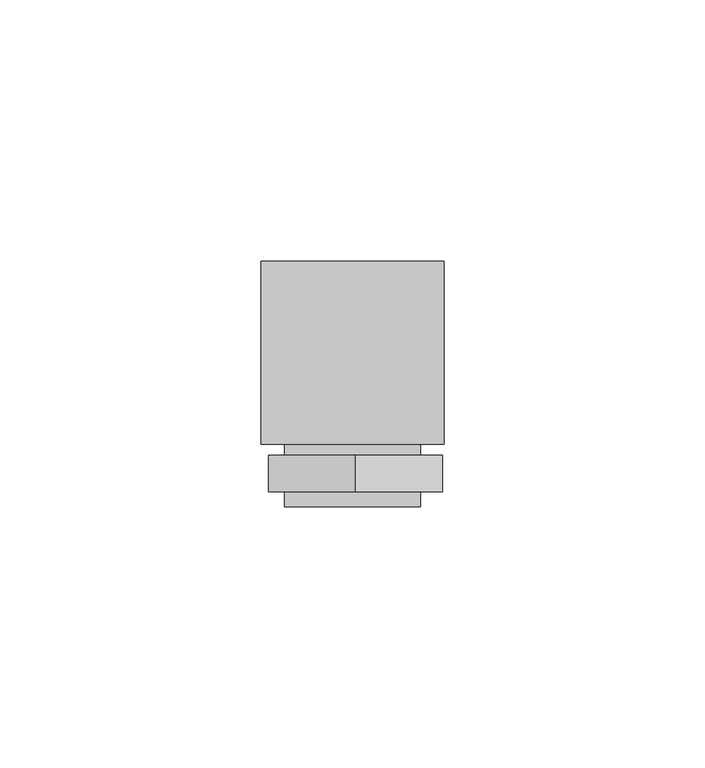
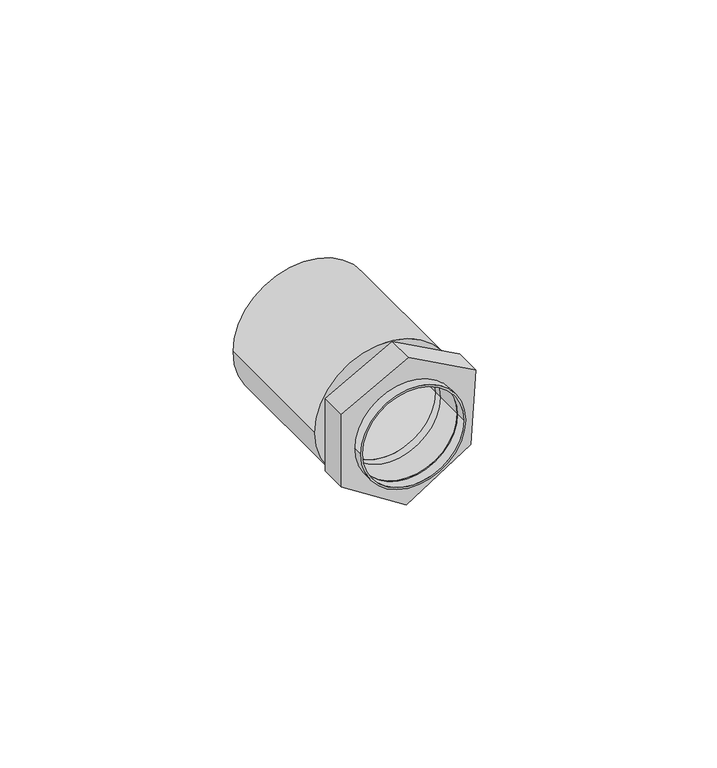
"""IFC4 building model written with IfcOpenShell, lengths in millimetres: cable carrier fitting geometry, Муфта_вводная_для_гофротрубы : Муфта вводная для гофротрубы 25мм."""

from ifc_helpers import new_model, si_unit, point, frame, frame_2d, origin, place, context, project, spatial, polyline, circle_curve, trimmed, segment, composite_curve, outline, extrude, source, transform, mapped, element, save


def cable_carrier_fitting_b6f59f73(model_context):
    return source(origin(), model_context, "Body", "SweptSolid", [
        extrude(outline(polyline([(-9.1903644, 16.0), (9.7631294, 17.3285606), (18.9133239, 0.6770159), (9.8096356, -16.0), (-9.1903644, -16.0), (-19.4373152, 0.0), (-9.1903644, 16.0)]), holes=[composite_curve([segment(trimmed(circle_curve(frame_2d((0.0057257, 0.0905136)), 12.5), [point((0.0057257, 12.5905136))], [point((0.0057257, -12.4094864))], True, "CARTESIAN"), True, "CONTINUOUS"), segment(trimmed(circle_curve(frame_2d((0.0057257, 0.0905136)), 12.5), [point((0.0057257, -12.4094864))], [point((0.0057257, 12.5905136))], True, "CARTESIAN"), True, "CONTINUOUS")], self_intersect=False)]), frame((0.0, -44.1018563, 0.0), z_axis=(0.0, 1.0, 0.0), x_axis=(0.0, 0.0, 1.0)), (0.0, 0.0, 1.0), 7.0),
        extrude(outline(composite_curve([segment(trimmed(circle_curve(frame_2d((0.0032191, 0.0900025)), 13.0), [point((0.0032191, -12.9099975))], [point((0.0032191, 13.0900025))], False, "CARTESIAN"), True, "CONTINUOUS"), segment(trimmed(circle_curve(frame_2d((0.0032191, 0.0900025)), 13.0), [point((0.0032191, 13.0900025))], [point((0.0032191, -12.9099975))], False, "CARTESIAN"), True, "CONTINUOUS")], self_intersect=False), holes=[composite_curve([segment(trimmed(circle_curve(frame_2d((0.0057257, 0.0905136)), 12.5), [point((0.0057257, 12.5905136))], [point((0.0057257, -12.4094864))], True, "CARTESIAN"), True, "CONTINUOUS"), segment(trimmed(circle_curve(frame_2d((0.0057257, 0.0905136)), 12.5), [point((0.0057257, -12.4094864))], [point((0.0057257, 12.5905136))], True, "CARTESIAN"), True, "CONTINUOUS")], self_intersect=False)]), frame((0.0, -47.0, 0.0), z_axis=(0.0, 1.0, 0.0), x_axis=(0.0, 0.0, 1.0)), (0.0, 0.0, 1.0), 12.0),
        extrude(outline(composite_curve([segment(trimmed(circle_curve(frame_2d((0.0, 0.0905136)), 17.5), [point((0.0, -17.4094864))], [point((0.0, 17.5905136))], False, "CARTESIAN"), True, "CONTINUOUS"), segment(trimmed(circle_curve(frame_2d((0.0, 0.0905136)), 17.5), [point((0.0, 17.5905136))], [point((0.0, -17.4094864))], False, "CARTESIAN"), True, "CONTINUOUS")], self_intersect=False), holes=[composite_curve([segment(trimmed(circle_curve(frame_2d((0.0057257, 0.0905136)), 12.5), [point((0.0057257, 12.5905136))], [point((0.0057257, -12.4094864))], True, "CARTESIAN"), True, "CONTINUOUS"), segment(trimmed(circle_curve(frame_2d((0.0057257, 0.0905136)), 12.5), [point((0.0057257, -12.4094864))], [point((0.0057257, 12.5905136))], True, "CARTESIAN"), True, "CONTINUOUS")], self_intersect=False)]), frame((0.0, -35.0, 0.0), z_axis=(0.0, 1.0, 0.0), x_axis=(0.0, 0.0, 1.0)), (0.0, 0.0, 1.0), 35.0),
    ])


if __name__ == "__main__":
    model = new_model("IFC4")
    model_context = context("Model", 3, world=origin())
    ifc_project = project(units=[si_unit("LENGTHUNIT", "METRE", prefix="MILLI")], contexts=[model_context])
    site = spatial("IfcSite", under=ifc_project)
    building = spatial("IfcBuilding", under=site)
    placement = place(None, origin())
    cable_carrier_fitting_shape = cable_carrier_fitting_b6f59f73(model_context)
    element("IfcCableCarrierFitting", 1, ObjectType="Муфта_вводная_для_гофротрубы : Муфта вводная для гофротрубы 25мм", at=placement, inside=building, context=model_context, shape_type="MappedRepresentation", body=[
        mapped(cable_carrier_fitting_shape, transform((0.0, 0.0, 0.0), x_axis=(1.0, 0.0, 0.0), y_axis=(0.0, 1.0, 0.0), z_axis=(0.0, 0.0, 1.0))),
    ])
    save(model, "model.ifc")
